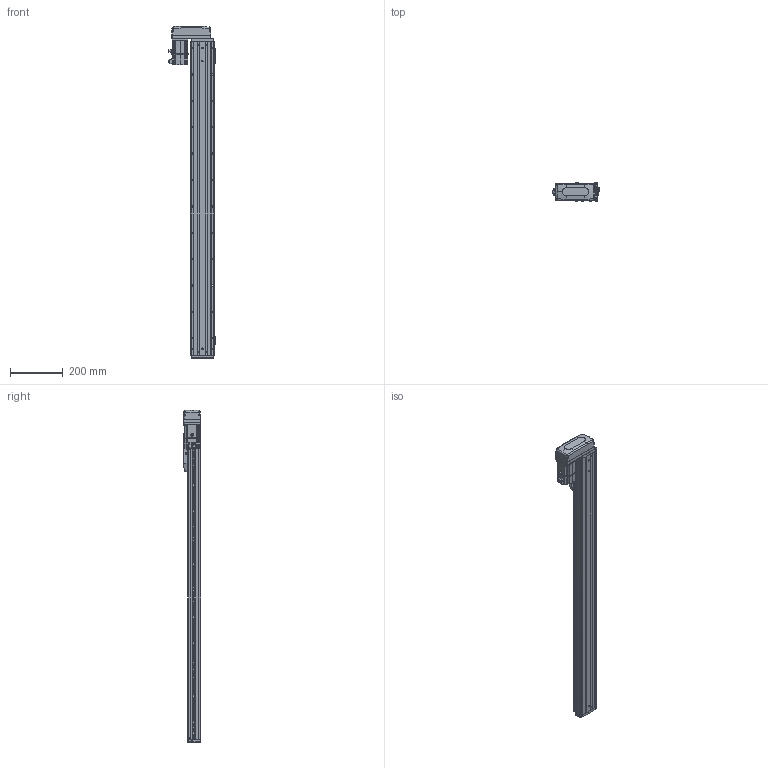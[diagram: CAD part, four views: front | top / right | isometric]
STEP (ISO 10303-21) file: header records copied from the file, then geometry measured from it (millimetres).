
FILE_DESCRIPTION (( 'STEP AP203' ), '1' );
FILE_NAME ('CTHA86-1000-BR-M20-C4L.step', '2022-04-26T00:58:30', ( '微软用户' ), ( '微软中国' ), 'SwSTEP 2.0', 'SolidWorks 2020', '' );
FILE_SCHEMA (( 'CONFIG_CONTROL_DESIGN' ));
Length unit declared in the file: millimetre
Products named in the file (21): CTHA86-031; KTHA86-005; GBT70.1 M5℅16; CTHA86-030; GB¨uT 70.2-M3¡Á5_M3¡Á6; GBT 70.1-M3×16; GBT 70.3-M3℅6; EE_SX911P_R; GBT 70.1-M3℅6; CTHA86-015-1_CTHA86-015-2; CTHA60-017; CTHA60-016; CTHA86-033; CTHA60-021; _X2_4E0983F1_X0_200W_1; CTHA86-1000-BR-M20-C4L; KTHA86-001_1190; GBT77-2000 M3×3; CTHA86-002; KTHA86-004; GBT 70.1-M3×20
Assembly tree (66 placements, depth 2):
  CTHA86-1000-BR-M20-C4L
    KTHA86-001_1190
    KTHA86-004
    KTHA86-005
    GB¨uT 70.2-M3¡Á5_M3¡Á6  x10
    EE_SX911P_R  x3
    CTHA60-017  x3
    CTHA60-021  x2
    GBT77-2000 M3×3  x6
    GBT 70.1-M3×20
    GBT70.1 M5℅16  x14
    GBT 70.1-M3×16  x5
    GBT 70.1-M3℅6  x6
    CTHA60-016  x2
    _X2_4E0983F1_X0_200W_1
    CTHA86-002
    CTHA86-031
    CTHA86-030  x2
    GBT 70.3-M3℅6  x4
    CTHA86-015-1_CTHA86-015-2
    CTHA86-033
Bounding box: 178.52 x 68 x 1259 mm (x, y, z)
Volume: 4649164.1 mm3; surface area: 789836.2 mm2
Topology: 68 solids, 68 shells, 2866 faces, 6876 edges, 4240 vertices
Faces by surface type: plane 1511, cylinder 747, cone 377, torus 132, bspline 75, sphere 24
Entity records: 51665 total; most frequent: CARTESIAN_POINT 9955, DIRECTION 8069, ORIENTED_EDGE 7852, EDGE_CURVE 3926, AXIS2_PLACEMENT_3D 2738, VECTOR 2593, LINE 2593, VERTEX_POINT 2472
